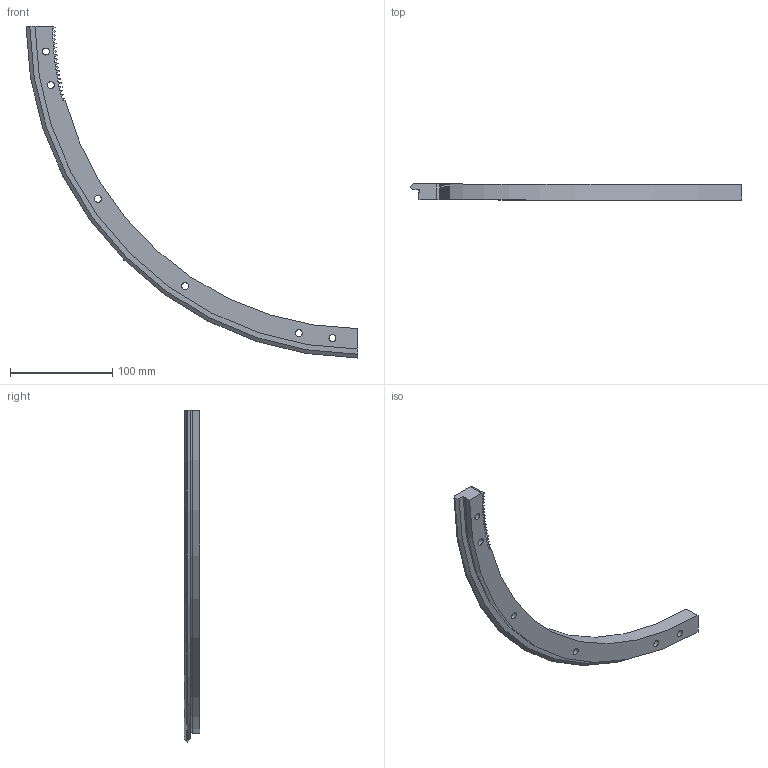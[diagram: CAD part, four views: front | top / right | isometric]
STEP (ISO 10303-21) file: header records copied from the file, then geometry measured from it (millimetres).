
FILE_DESCRIPTION( ( 'STEP AP203' ), '1' );
FILE_NAME( 'p:/temp/worker_33/temp/exporttempdir_4684_1005_6l78M/format_0/TREM 655 R90 Q .stp', '2021-09-17T07:52:29', ( 'License CC BY-ND 4.0' ), ( 'CADENAS' ), ' ', 'PARTsolutions', ' ' );
FILE_SCHEMA( ( 'CONFIG_CONTROL_DESIGN' ) );
Length unit declared in the file: millimetre
Products named in the file (1): _TREM 655 R90 Q 
Bounding box: 325.04 x 15.5 x 325.04 mm (x, y, z)
Volume: 162024.2 mm3; surface area: 45359.6 mm2
Topology: 1 solids, 1 shells, 107 faces, 297 edges, 198 vertices
Faces by surface type: cylinder 53, plane 51, cone 2, torus 1
Full cylindrical faces by diameter (mm): 6.8 x6, 11 x6
Entity records: 3487 total; most frequent: CARTESIAN_POINT 621, DIRECTION 605, ORIENTED_EDGE 570, EDGE_CURVE 285, AXIS2_PLACEMENT_3D 218, VERTEX_POINT 198, LINE 169, VECTOR 169
